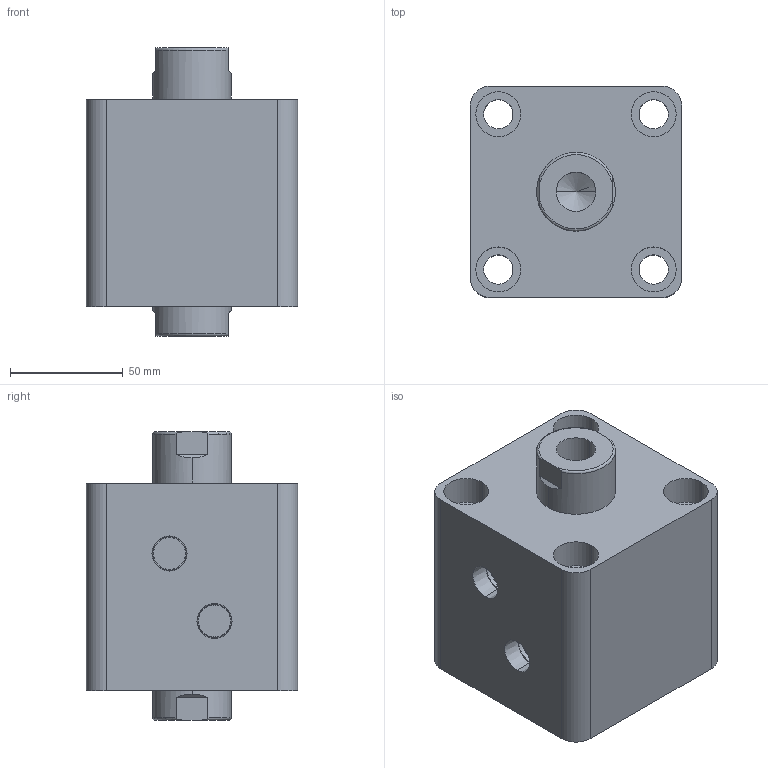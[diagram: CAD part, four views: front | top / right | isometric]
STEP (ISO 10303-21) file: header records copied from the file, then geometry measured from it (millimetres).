
FILE_DESCRIPTION (( 'STEP AP203' ), '1' );
FILE_NAME ('HTB-SW63-10N.STEP', '2019-10-07T09:29:57', ( '微软用户' ), ( '微软中国' ), 'SwSTEP 2.0', 'SolidWorks 2012', '' );
FILE_SCHEMA (( 'CONFIG_CONTROL_DESIGN' ));
Length unit declared in the file: millimetre
Products named in the file (3): HTB-SW63-10N; HTB-SW63-10N活塞杆; HTB-SW63-10掛极
Assembly tree (2 placements, depth 2):
  HTB-SW63-10N
    HTB-SW63-10掛极
    HTB-SW63-10N活塞杆
Bounding box: 94 x 94 x 128 mm (x, y, z)
Volume: 737079.6 mm3; surface area: 107014.2 mm2
Topology: 2 solids, 2 shells, 100 faces, 228 edges, 146 vertices
Faces by surface type: cylinder 48, plane 32, torus 12, cone 8
Entity records: 3253 total; most frequent: CARTESIAN_POINT 611, DIRECTION 542, ORIENTED_EDGE 448, AXIS2_PLACEMENT_3D 229, EDGE_CURVE 224, VERTEX_POINT 146, EDGE_LOOP 128, CIRCLE 124
